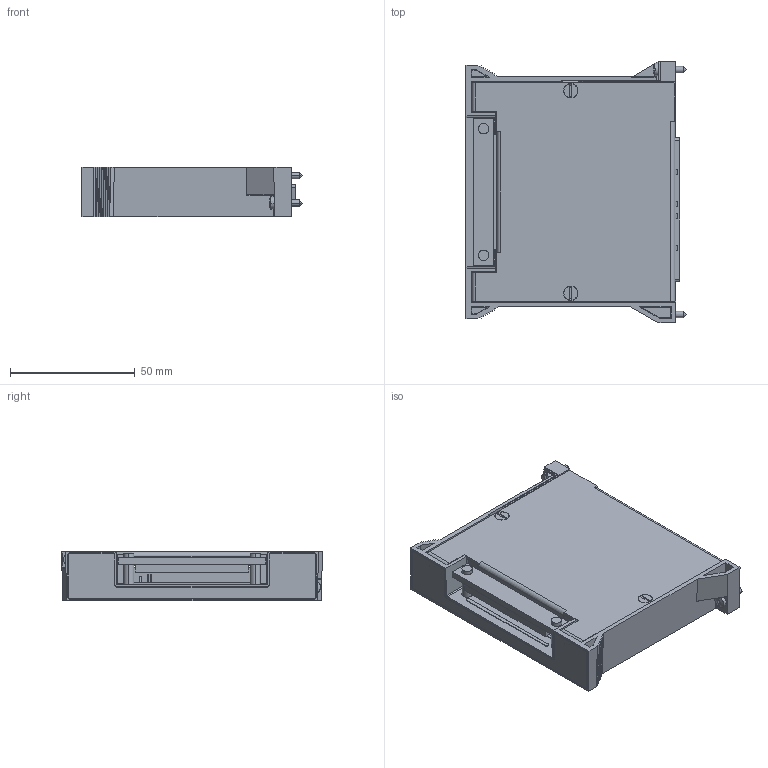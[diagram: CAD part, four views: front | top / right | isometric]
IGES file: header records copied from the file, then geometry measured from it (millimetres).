
Start section:  PTC IGES file: cu_tb-2631b.igs
Global section: file name: cu_tb-2631b.igs; native system: Pro/ENGINEER by Parametric Technology Corporation; preprocessor: 2010230; author: jjorden; organization: Unknown; date: 20110121.163218; units: inch
Bounding box: 88.31 x 104.78 x 20.02 mm (x, y, z)
Surface area: 53541.9 mm2 (no closed solid volume)
Topology: 0 solids, 0 shells, 1401 faces, 7382 edges, 7318 vertices
Faces by surface type: bspline 1054, revolution 347
